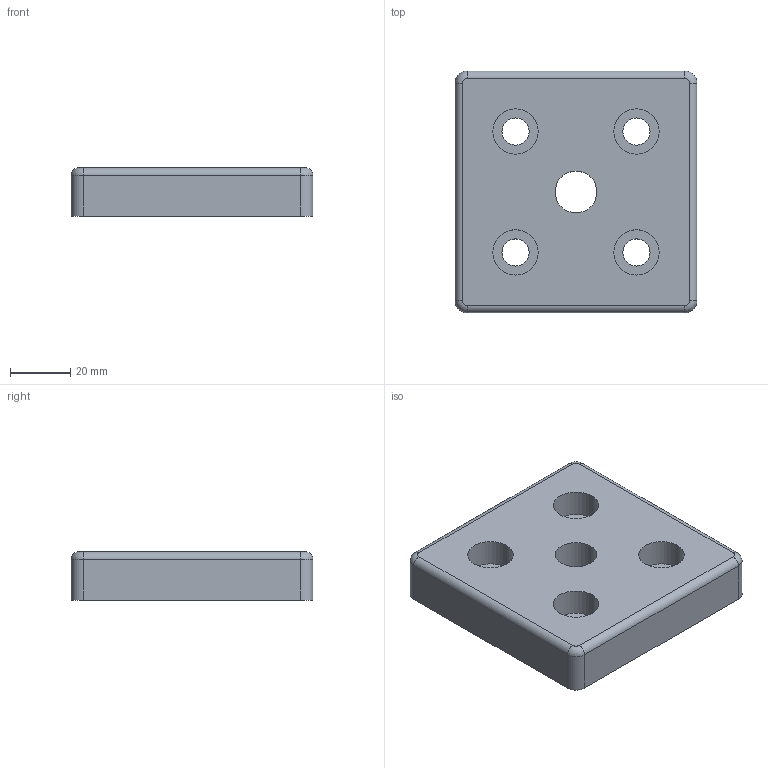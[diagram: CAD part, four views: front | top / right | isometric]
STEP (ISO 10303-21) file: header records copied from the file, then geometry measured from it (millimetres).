
FILE_DESCRIPTION (( 'STEP AP203' ), '1' );
FILE_NAME ('0108FP8080M16.STEP', '2024-09-06T09:00:03', ( 'Windows-Benutzer' ), ( '' ), 'SwSTEP 2.0', 'SolidWorks 2024', '' );
FILE_SCHEMA (( 'CONFIG_CONTROL_DESIGN' ));
Length unit declared in the file: millimetre
Products named in the file (1): 0108FP8080M16
Bounding box: 80 x 80 x 16 mm (x, y, z)
Volume: 91216.7 mm3; surface area: 19817.8 mm2
Topology: 1 solids, 1 shells, 40 faces, 94 edges, 60 vertices
Faces by surface type: cylinder 26, plane 10, torus 4
Entity records: 1267 total; most frequent: DIRECTION 232, CARTESIAN_POINT 195, ORIENTED_EDGE 188, AXIS2_PLACEMENT_3D 97, EDGE_CURVE 94, VERTEX_POINT 60, CIRCLE 56, EDGE_LOOP 54
